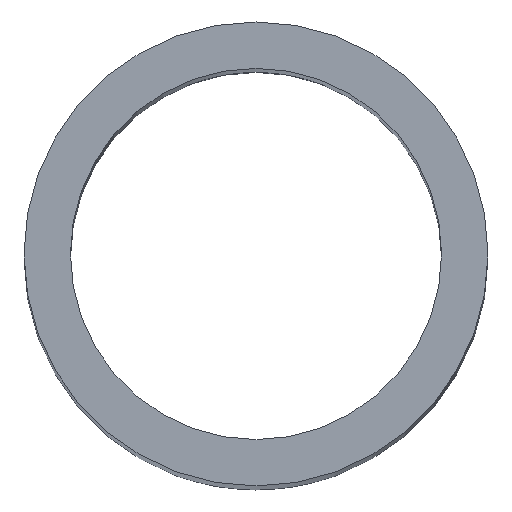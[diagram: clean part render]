
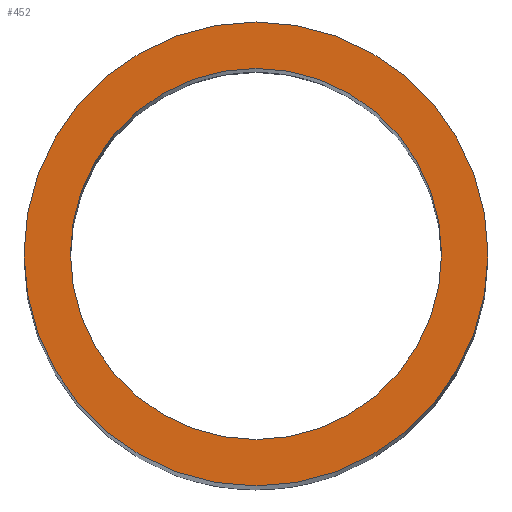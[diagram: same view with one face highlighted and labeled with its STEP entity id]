
A CAD part, top view. The second image highlights one B-rep face of the part: STEP entity #452.
In plain terms, the highlighted planar face has unit normal (0, 0, 1).
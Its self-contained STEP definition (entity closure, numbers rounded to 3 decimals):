
#4 = CARTESIAN_POINT ( 'NONE',  ( 15., 0., 150. ) ) ;
#8 = ORIENTED_EDGE ( 'NONE', *, *, #503, .T. ) ;
#15 = CARTESIAN_POINT ( 'NONE',  ( 0., 0., 150. ) ) ;
#18 = EDGE_CURVE ( 'NONE', #543, #373, #635, .T. ) ;
#32 = AXIS2_PLACEMENT_3D ( 'NONE', #115, #413, #561 ) ;
#40 = CIRCLE ( 'NONE', #614, 15. ) ;
#60 = ORIENTED_EDGE ( 'NONE', *, *, #439, .F. ) ;
#63 = DIRECTION ( 'NONE',  ( 1., 0., 0. ) ) ;
#72 = AXIS2_PLACEMENT_3D ( 'NONE', #213, #228, #287 ) ;
#115 = CARTESIAN_POINT ( 'NONE',  ( 0., 0., 150. ) ) ;
#129 = DIRECTION ( 'NONE',  ( 0., 0., 1. ) ) ;
#168 = DIRECTION ( 'NONE',  ( 1., 0., 0. ) ) ;
#169 = PLANE ( 'NONE',  #405 ) ;
#203 = EDGE_CURVE ( 'NONE', #415, #272, #40, .T. ) ;
#213 = CARTESIAN_POINT ( 'NONE',  ( 0., 0., 150. ) ) ;
#216 = EDGE_LOOP ( 'NONE', ( #60, #221 ) ) ;
#220 = CARTESIAN_POINT ( 'NONE',  ( 0., 0., 150. ) ) ;
#221 = ORIENTED_EDGE ( 'NONE', *, *, #18, .F. ) ;
#228 = DIRECTION ( 'NONE',  ( 0., 0., 1. ) ) ;
#272 = VERTEX_POINT ( 'NONE', #346 ) ;
#287 = DIRECTION ( 'NONE',  ( 1., 0., 0. ) ) ;
#295 = AXIS2_PLACEMENT_3D ( 'NONE', #220, #129, #327 ) ;
#325 = CIRCLE ( 'NONE', #32, 12. ) ;
#327 = DIRECTION ( 'NONE',  ( 1., 0., 0. ) ) ;
#346 = CARTESIAN_POINT ( 'NONE',  ( -15., 0., 150. ) ) ;
#355 = FACE_OUTER_BOUND ( 'NONE', #582, .T. ) ;
#373 = VERTEX_POINT ( 'NONE', #399 ) ;
#399 = CARTESIAN_POINT ( 'NONE',  ( 12., 0., 150. ) ) ;
#405 = AXIS2_PLACEMENT_3D ( 'NONE', #515, #601, #63 ) ;
#413 = DIRECTION ( 'NONE',  ( 0., 0., 1. ) ) ;
#415 = VERTEX_POINT ( 'NONE', #4 ) ;
#439 = EDGE_CURVE ( 'NONE', #373, #543, #325, .T. ) ;
#440 = CIRCLE ( 'NONE', #72, 15. ) ;
#452 = ADVANCED_FACE ( 'NONE', ( #615, #355 ), #169, .T. ) ;
#503 = EDGE_CURVE ( 'NONE', #272, #415, #440, .T. ) ;
#515 = CARTESIAN_POINT ( 'NONE',  ( 0., 0., 150. ) ) ;
#543 = VERTEX_POINT ( 'NONE', #584 ) ;
#561 = DIRECTION ( 'NONE',  ( 1., 0., 0. ) ) ;
#564 = DIRECTION ( 'NONE',  ( 0., 0., 1. ) ) ;
#566 = ORIENTED_EDGE ( 'NONE', *, *, #203, .T. ) ;
#582 = EDGE_LOOP ( 'NONE', ( #8, #566 ) ) ;
#584 = CARTESIAN_POINT ( 'NONE',  ( -12., 0., 150. ) ) ;
#601 = DIRECTION ( 'NONE',  ( 0., 0., 1. ) ) ;
#614 = AXIS2_PLACEMENT_3D ( 'NONE', #15, #564, #168 ) ;
#615 = FACE_BOUND ( 'NONE', #216, .T. ) ;
#635 = CIRCLE ( 'NONE', #295, 12. ) ;
